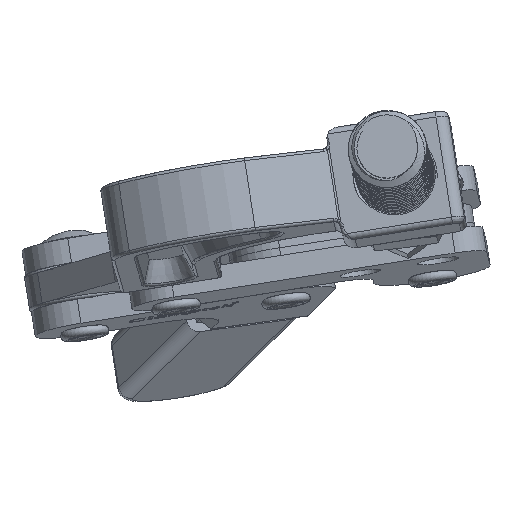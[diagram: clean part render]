
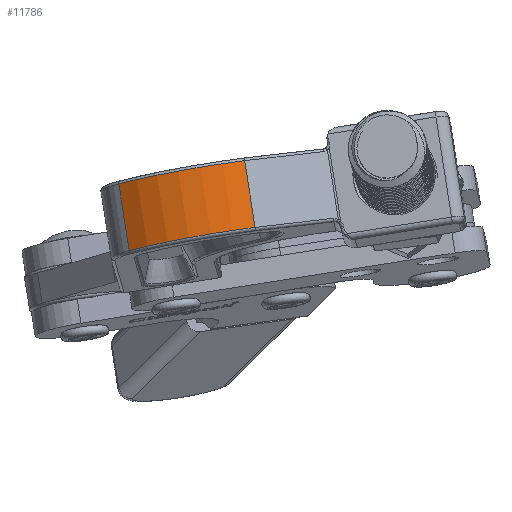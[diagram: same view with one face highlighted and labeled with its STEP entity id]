
A CAD part, left-side view. The second image highlights one B-rep face of the part: STEP entity #11786.
In plain terms, the highlighted cylindrical face has radius 25 mm (diameter 50 mm), a partial arc.
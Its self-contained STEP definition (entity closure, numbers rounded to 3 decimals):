
#851=FACE_OUTER_BOUND('',#1536,.T.);
#1536=EDGE_LOOP('',(#8643,#8644,#8645,#8646));
#2192=CIRCLE('',#12689,25.);
#2239=CIRCLE('',#12748,25.);
#3182=LINE('',#23263,#4056);
#3183=LINE('',#23264,#4057);
#4056=VECTOR('',#14009,1000.);
#4057=VECTOR('',#14010,1000.);
#5054=VERTEX_POINT('',#23029);
#5055=VERTEX_POINT('',#23030);
#5103=VERTEX_POINT('',#23260);
#5104=VERTEX_POINT('',#23261);
#6390=EDGE_CURVE('',#5054,#5055,#2192,.T.);
#6449=EDGE_CURVE('',#5103,#5104,#2239,.T.);
#6450=EDGE_CURVE('',#5104,#5054,#3182,.T.);
#6451=EDGE_CURVE('',#5103,#5055,#3183,.T.);
#8643=ORIENTED_EDGE('',*,*,#6449,.T.);
#8644=ORIENTED_EDGE('',*,*,#6450,.T.);
#8645=ORIENTED_EDGE('',*,*,#6390,.T.);
#8646=ORIENTED_EDGE('',*,*,#6451,.F.);
#11565=CYLINDRICAL_SURFACE('',#12747,25.);
#11786=ADVANCED_FACE('',(#851),#11565,.T.);
#12689=AXIS2_PLACEMENT_3D('',#23031,#13881,#13882);
#12747=AXIS2_PLACEMENT_3D('',#23259,#14005,#14006);
#12748=AXIS2_PLACEMENT_3D('',#23262,#14007,#14008);
#13881=DIRECTION('center_axis',(0.,0.,1.));
#13882=DIRECTION('ref_axis',(-1.,0.,0.));
#14005=DIRECTION('center_axis',(0.,0.,-1.));
#14006=DIRECTION('ref_axis',(-1.,0.,0.));
#14007=DIRECTION('center_axis',(0.,0.,-1.));
#14008=DIRECTION('ref_axis',(1.,0.,0.));
#14009=DIRECTION('',(0.,0.,-1.));
#14010=DIRECTION('',(0.,0.,-1.));
#23029=CARTESIAN_POINT('',(-1044.507,-750.439,3.75));
#23030=CARTESIAN_POINT('',(-1049.01,-771.205,3.75));
#23031=CARTESIAN_POINT('Origin',(-1024.643,-765.618,3.75));
#23259=CARTESIAN_POINT('Origin',(-1024.643,-765.618,18.5));
#23260=CARTESIAN_POINT('',(-1049.01,-771.205,14.75));
#23261=CARTESIAN_POINT('',(-1044.507,-750.439,14.75));
#23262=CARTESIAN_POINT('Origin',(-1024.643,-765.618,14.75));
#23263=CARTESIAN_POINT('',(-1044.507,-750.439,18.5));
#23264=CARTESIAN_POINT('',(-1049.01,-771.205,18.5));
